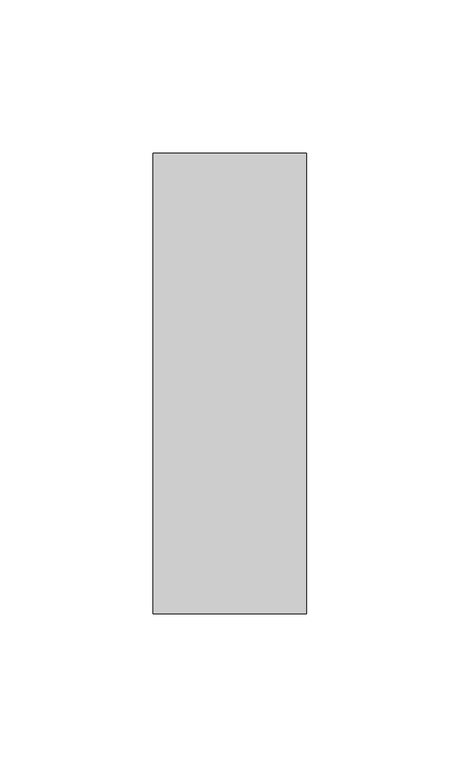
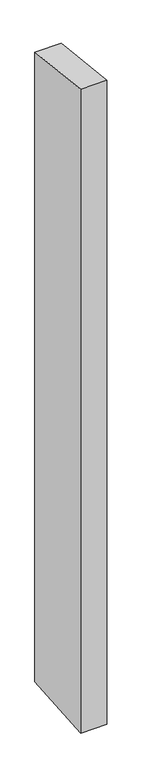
"""IFC4 building model written with IfcOpenShell, lengths in millimetres: member geometry, Прямоугольный импост : 50 x 150 мм."""

from ifc_helpers import new_model, si_unit, origin, place, context, project, spatial, faceted_brep, source, transform, mapped, element, save


def member_51f9f607(model_context):
    return source(origin(), model_context, "Body", "Brep", [
        faceted_brep([(-25.0, 75.0, -8.4846133), (25.0, 75.0, -8.3637211), (25.0, 75.0, -1270.0836944), (-25.0, 75.0, -1269.966705), (-25.0, -75.0, 8.3637211), (-25.0, -75.0, -1282.116465), (25.0, -75.0, 8.4846133), (25.0, -75.0, -1282.2334544)], [[[0, 1, 2, 3]], [[4, 0, 3, 5]], [[6, 4, 5, 7]], [[1, 6, 7, 2]], [[1, 0, 4, 6]], [[2, 7, 5, 3]]]),
    ])


if __name__ == "__main__":
    model = new_model("IFC4")
    model_context = context("Model", 3, world=origin())
    ifc_project = project(units=[si_unit("LENGTHUNIT", "METRE", prefix="MILLI")], contexts=[model_context])
    site = spatial("IfcSite", under=ifc_project)
    building = spatial("IfcBuilding", under=site)
    placement = place(None, origin())
    member_shape = member_51f9f607(model_context)
    element("IfcMember", 1, ObjectType="Прямоугольный импост : 50 x 150 мм", at=placement, inside=building, context=model_context, shape_type="MappedRepresentation", body=[
        mapped(member_shape, transform((0.0, 0.0, 0.0), x_axis=(1.0, 0.0, 0.0), y_axis=(0.0, 1.0, 0.0), z_axis=(0.0, 0.0, 1.0))),
    ])
    save(model, "model.ifc")
